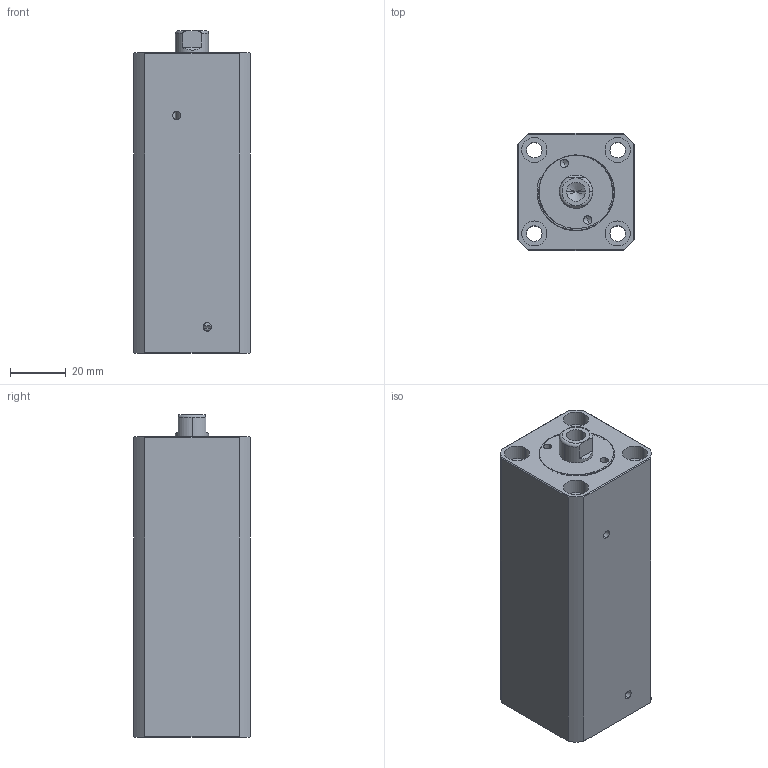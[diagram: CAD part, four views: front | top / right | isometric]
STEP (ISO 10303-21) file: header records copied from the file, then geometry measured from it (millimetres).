
FILE_DESCRIPTION (( 'STEP AP214' ), '1' );
FILE_NAME ('chtb-sdmb20x65_asm.STEP', '2018-05-18T08:29:08', ( 'Windows' ), ( 'Microsoft' ), 'SwSTEP 2.0', 'SolidWorks 2015', '' );
FILE_SCHEMA (( 'AUTOMOTIVE_DESIGN' ));
Length unit declared in the file: millimetre
Products named in the file (4): QG_3; CHTB-SDMB20X65NHSG; CHTB-SDMB20X65NBT; chtb-sdmb20x65_asm
Assembly tree (3 placements, depth 2):
  chtb-sdmb20x65_asm
    CHTB-SDMB20X65NBT
    CHTB-SDMB20X65NHSG
    QG_3
Bounding box: 42 x 42 x 116 mm (x, y, z)
Volume: 159985.2 mm3; surface area: 46265.3 mm2
Topology: 3 solids, 3 shells, 201 faces, 535 edges, 354 vertices
Faces by surface type: cylinder 106, plane 43, torus 25, bspline 21, cone 6
Entity records: 11558 total; most frequent: CARTESIAN_POINT 6663, ORIENTED_EDGE 1058, DIRECTION 922, EDGE_CURVE 529, AXIS2_PLACEMENT_3D 388, VERTEX_POINT 354, EDGE_LOOP 239, CIRCLE 202
